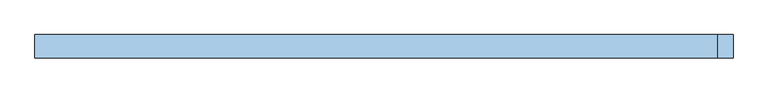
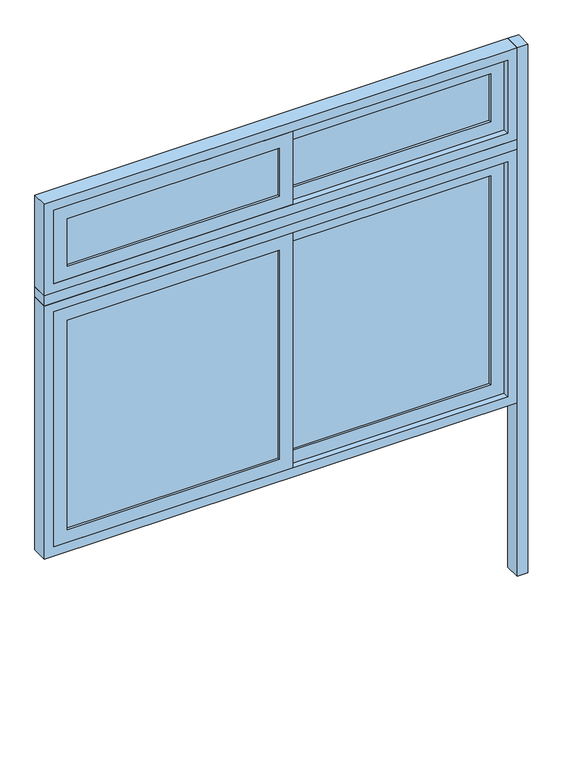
"""IFC4 building model written with IfcOpenShell, lengths in millimetres: window geometry, A4 Cerramiento aula Exterior_vidrios corredizos : A4 Cerramiento aula Exterior_vidrios corredizos."""

from ifc_helpers import new_model, si_unit, frame, origin, origin_with_axes, place, context, project, spatial, polyline, outline, extrude, source, transform, mapped, element, save


def window_cef8fd30(model_context):
    return source(origin(), model_context, "Body", "SweptSolid", [
        extrude(outline(polyline([(1125.0, 87.5), (1125.0, 12.5), (1075.0, 12.5), (1075.0, 87.5), (1125.0, 87.5)])), origin_with_axes(), (0.0, 0.0, 1.0), 2600.0),
        extrude(outline(polyline([(-31.5, 23.5), (-1017.0, 23.5), (-1017.0, 29.5), (-31.5, 29.5), (-31.5, 23.5)])), frame((0.0, 0.0, 2258.0), z_axis=(0.0, 0.0, 1.0), x_axis=(1.0, 0.0, 0.0)), (0.0, 0.0, 1.0), 234.0),
        extrude(outline(polyline([(-31.5, 23.5), (-1017.0, 23.5), (-1017.0, 29.5), (-31.5, 29.5), (-31.5, 23.5)])), frame((0.0, 0.0, 963.0), z_axis=(0.0, 0.0, 1.0), x_axis=(1.0, 0.0, 0.0)), (0.0, 0.0, 1.0), 1029.0),
        extrude(outline(polyline([(967.0, 51.5), (31.5, 51.5), (31.5, 57.5), (967.0, 57.5), (967.0, 51.5)])), frame((0.0, 0.0, 2258.0), z_axis=(0.0, 0.0, 1.0), x_axis=(1.0, 0.0, 0.0)), (0.0, 0.0, 1.0), 234.0),
        extrude(outline(polyline([(967.0, 51.5), (31.5, 51.5), (31.5, 57.5), (967.0, 57.5), (967.0, 51.5)])), frame((0.0, 0.0, 963.0), z_axis=(0.0, 0.0, 1.0), x_axis=(1.0, 0.0, 0.0)), (0.0, 0.0, 1.0), 1029.0),
        extrude(outline(polyline([(2555.0, -1080.0), (2195.0, -1080.0), (2195.0, 31.5), (2555.0, 31.5), (2555.0, -1080.0)]), holes=[polyline([(2258.0, -1017.0), (2492.0, -1017.0), (2492.0, -31.5), (2258.0, -31.5), (2258.0, -1017.0)])]), frame((0.0, 12.5, 0.0), z_axis=(0.0, 1.0, 0.0), x_axis=(0.0, 0.0, 1.0)), (0.0, 0.0, 1.0), 28.0),
        extrude(outline(polyline([(2055.0, -1080.0), (900.0, -1080.0), (900.0, 31.5), (2055.0, 31.5), (2055.0, -1080.0)]), holes=[polyline([(963.0, -1017.0), (1992.0, -1017.0), (1992.0, -31.5), (963.0, -31.5), (963.0, -1017.0)])]), frame((0.0, 12.5, 0.0), z_axis=(0.0, 1.0, 0.0), x_axis=(0.0, 0.0, 1.0)), (0.0, 0.0, 1.0), 28.0),
        extrude(outline(polyline([(2195.0, -31.5), (2195.0, 1030.0), (2555.0, 1030.0), (2555.0, -31.5), (2195.0, -31.5)]), holes=[polyline([(2492.0, 31.5), (2492.0, 967.0), (2258.0, 967.0), (2258.0, 31.5), (2492.0, 31.5)])]), frame((0.0, 40.5, 0.0), z_axis=(0.0, 1.0, 0.0), x_axis=(0.0, 0.0, 1.0)), (0.0, 0.0, 1.0), 28.0),
        extrude(outline(polyline([(900.0, -31.5), (900.0, 1030.0), (2055.0, 1030.0), (2055.0, -31.5), (900.0, -31.5)]), holes=[polyline([(1992.0, 31.5), (1992.0, 967.0), (963.0, 967.0), (963.0, 31.5), (1992.0, 31.5)])]), frame((0.0, 40.5, 0.0), z_axis=(0.0, 1.0, 0.0), x_axis=(0.0, 0.0, 1.0)), (0.0, 0.0, 1.0), 28.0),
        extrude(outline(polyline([(2600.0, -1125.0), (2150.0, -1125.0), (2150.0, 1075.0), (2600.0, 1075.0), (2600.0, -1125.0)]), holes=[polyline([(2555.0, -1080.0), (2555.0, 1030.0), (2195.0, 1030.0), (2195.0, -1080.0), (2555.0, -1080.0)])]), frame((0.0, 12.5, 0.0), z_axis=(0.0, 1.0, 0.0), x_axis=(0.0, 0.0, 1.0)), (0.0, 0.0, 1.0), 75.0),
        extrude(outline(polyline([(2100.0, -1125.0), (855.0, -1125.0), (855.0, 1075.0), (2100.0, 1075.0), (2100.0, -1125.0)]), holes=[polyline([(2055.0, -1080.0), (2055.0, 1030.0), (900.0, 1030.0), (900.0, -1080.0), (2055.0, -1080.0)])]), frame((0.0, 12.5, 0.0), z_axis=(0.0, 1.0, 0.0), x_axis=(0.0, 0.0, 1.0)), (0.0, 0.0, 1.0), 75.0),
        extrude(outline(polyline([(1075.0, 12.5), (-1125.0, 12.5), (-1125.0, 87.5), (1075.0, 87.5), (1075.0, 12.5)])), frame((0.0, 0.0, 2100.0), z_axis=(0.0, 0.0, 1.0), x_axis=(1.0, 0.0, 0.0)), (0.0, 0.0, 1.0), 50.0),
    ])


if __name__ == "__main__":
    model = new_model("IFC4")
    model_context = context("Model", 3, world=origin())
    ifc_project = project(units=[si_unit("LENGTHUNIT", "METRE", prefix="MILLI")], contexts=[model_context])
    site = spatial("IfcSite", under=ifc_project)
    building = spatial("IfcBuilding", under=site)
    placement = place(None, origin())
    window_shape = window_cef8fd30(model_context)
    element("IfcWindow", 1, ObjectType="A4 Cerramiento aula Exterior_vidrios corredizos : A4 Cerramiento aula Exterior_vidrios corredizos", at=placement, inside=building, context=model_context, shape_type="MappedRepresentation", body=[
        mapped(window_shape, transform((0.0, 0.0, 0.0), x_axis=(1.0, 0.0, 0.0), y_axis=(0.0, 1.0, 0.0), z_axis=(0.0, 0.0, 1.0))),
    ])
    save(model, "model.ifc")
